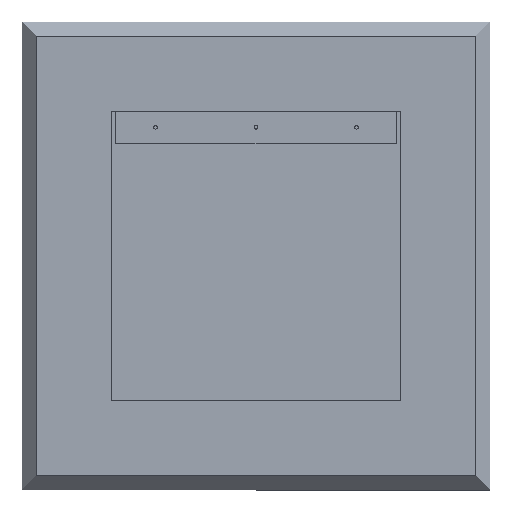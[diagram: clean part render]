
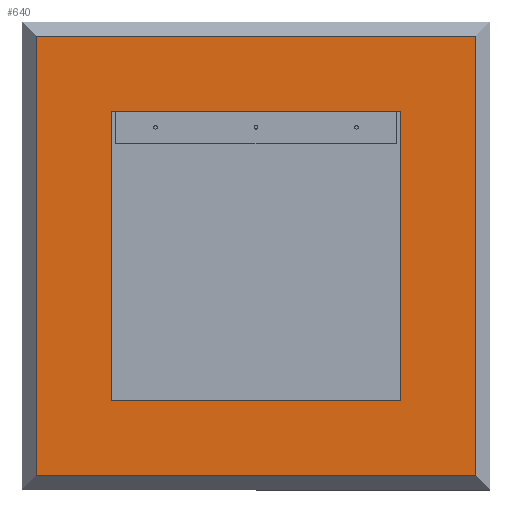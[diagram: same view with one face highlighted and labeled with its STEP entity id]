
A CAD part, top view. The second image highlights one B-rep face of the part: STEP entity #640.
In plain terms, the highlighted planar face has unit normal (0, 0, 1).
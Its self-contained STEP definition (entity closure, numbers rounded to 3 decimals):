
#5 = FACE_BOUND ( 'NONE', #725, .T. ) ;
#6 = CARTESIAN_POINT ( 'NONE',  ( -154., -154., 19. ) ) ;
#23 = LINE ( 'NONE', #188, #376 ) ;
#30 = DIRECTION ( 'NONE',  ( -1., 0., 0. ) ) ;
#42 = ORIENTED_EDGE ( 'NONE', *, *, #186, .T. ) ;
#85 = AXIS2_PLACEMENT_3D ( 'NONE', #262, #1049, #165 ) ;
#86 = CARTESIAN_POINT ( 'NONE',  ( -234., 234., 19. ) ) ;
#90 = LINE ( 'NONE', #6, #306 ) ;
#105 = CARTESIAN_POINT ( 'NONE',  ( -234., -249., 19. ) ) ;
#111 = CARTESIAN_POINT ( 'NONE',  ( 154., 154., 19. ) ) ;
#126 = CARTESIAN_POINT ( 'NONE',  ( -154., -154., 19. ) ) ;
#135 = VECTOR ( 'NONE', #247, 1000. ) ;
#145 = LINE ( 'NONE', #445, #988 ) ;
#151 = EDGE_CURVE ( 'NONE', #365, #220, #145, .T. ) ;
#156 = ORIENTED_EDGE ( 'NONE', *, *, #464, .F. ) ;
#163 = VERTEX_POINT ( 'NONE', #126 ) ;
#165 = DIRECTION ( 'NONE',  ( 1., 0., 0. ) ) ;
#170 = EDGE_CURVE ( 'NONE', #431, #632, #23, .T. ) ;
#186 = EDGE_CURVE ( 'NONE', #632, #512, #275, .T. ) ;
#188 = CARTESIAN_POINT ( 'NONE',  ( -249., 234., 19. ) ) ;
#197 = CARTESIAN_POINT ( 'NONE',  ( 234., -234., 19. ) ) ;
#220 = VERTEX_POINT ( 'NONE', #111 ) ;
#227 = VECTOR ( 'NONE', #545, 1000. ) ;
#231 = ORIENTED_EDGE ( 'NONE', *, *, #837, .F. ) ;
#247 = DIRECTION ( 'NONE',  ( 0., 1., 0. ) ) ;
#262 = CARTESIAN_POINT ( 'NONE',  ( 0., 0., 19. ) ) ;
#275 = LINE ( 'NONE', #105, #567 ) ;
#291 = CARTESIAN_POINT ( 'NONE',  ( -154., 154., 19. ) ) ;
#306 = VECTOR ( 'NONE', #410, 1000. ) ;
#320 = PLANE ( 'NONE',  #85 ) ;
#332 = ORIENTED_EDGE ( 'NONE', *, *, #819, .F. ) ;
#352 = ORIENTED_EDGE ( 'NONE', *, *, #151, .F. ) ;
#354 = VERTEX_POINT ( 'NONE', #291 ) ;
#365 = VERTEX_POINT ( 'NONE', #795 ) ;
#376 = VECTOR ( 'NONE', #30, 1000. ) ;
#391 = EDGE_CURVE ( 'NONE', #713, #431, #970, .T. ) ;
#410 = DIRECTION ( 'NONE',  ( 1., 0., 0. ) ) ;
#415 = FACE_OUTER_BOUND ( 'NONE', #677, .T. ) ;
#428 = VECTOR ( 'NONE', #1024, 1000. ) ;
#430 = DIRECTION ( 'NONE',  ( 0., -1., 0. ) ) ;
#431 = VERTEX_POINT ( 'NONE', #727 ) ;
#445 = CARTESIAN_POINT ( 'NONE',  ( 154., -154., 19. ) ) ;
#464 = EDGE_CURVE ( 'NONE', #163, #365, #90, .T. ) ;
#499 = CARTESIAN_POINT ( 'NONE',  ( 234., 249., 19. ) ) ;
#512 = VERTEX_POINT ( 'NONE', #599 ) ;
#527 = ORIENTED_EDGE ( 'NONE', *, *, #170, .T. ) ;
#532 = LINE ( 'NONE', #942, #227 ) ;
#545 = DIRECTION ( 'NONE',  ( 0., -1., 0. ) ) ;
#567 = VECTOR ( 'NONE', #430, 1000. ) ;
#599 = CARTESIAN_POINT ( 'NONE',  ( -234., -234., 19. ) ) ;
#632 = VERTEX_POINT ( 'NONE', #86 ) ;
#640 = ADVANCED_FACE ( 'NONE', ( #415, #5 ), #320, .T. ) ;
#677 = EDGE_LOOP ( 'NONE', ( #985, #527, #42, #901 ) ) ;
#693 = DIRECTION ( 'NONE',  ( -1., 0., 0. ) ) ;
#713 = VERTEX_POINT ( 'NONE', #197 ) ;
#725 = EDGE_LOOP ( 'NONE', ( #156, #231, #332, #352 ) ) ;
#727 = CARTESIAN_POINT ( 'NONE',  ( 234., 234., 19. ) ) ;
#775 = DIRECTION ( 'NONE',  ( 0., 1., 0. ) ) ;
#777 = CARTESIAN_POINT ( 'NONE',  ( 249., -234., 19. ) ) ;
#795 = CARTESIAN_POINT ( 'NONE',  ( 154., -154., 19. ) ) ;
#819 = EDGE_CURVE ( 'NONE', #220, #354, #1029, .T. ) ;
#837 = EDGE_CURVE ( 'NONE', #354, #163, #532, .T. ) ;
#866 = EDGE_CURVE ( 'NONE', #512, #713, #882, .T. ) ;
#882 = LINE ( 'NONE', #777, #428 ) ;
#892 = VECTOR ( 'NONE', #693, 1000. ) ;
#901 = ORIENTED_EDGE ( 'NONE', *, *, #866, .T. ) ;
#942 = CARTESIAN_POINT ( 'NONE',  ( -154., 154., 19. ) ) ;
#960 = CARTESIAN_POINT ( 'NONE',  ( 154., 154., 19. ) ) ;
#970 = LINE ( 'NONE', #499, #135 ) ;
#985 = ORIENTED_EDGE ( 'NONE', *, *, #391, .T. ) ;
#988 = VECTOR ( 'NONE', #775, 1000. ) ;
#1024 = DIRECTION ( 'NONE',  ( 1., 0., 0. ) ) ;
#1029 = LINE ( 'NONE', #960, #892 ) ;
#1049 = DIRECTION ( 'NONE',  ( 0., 0., 1. ) ) ;
